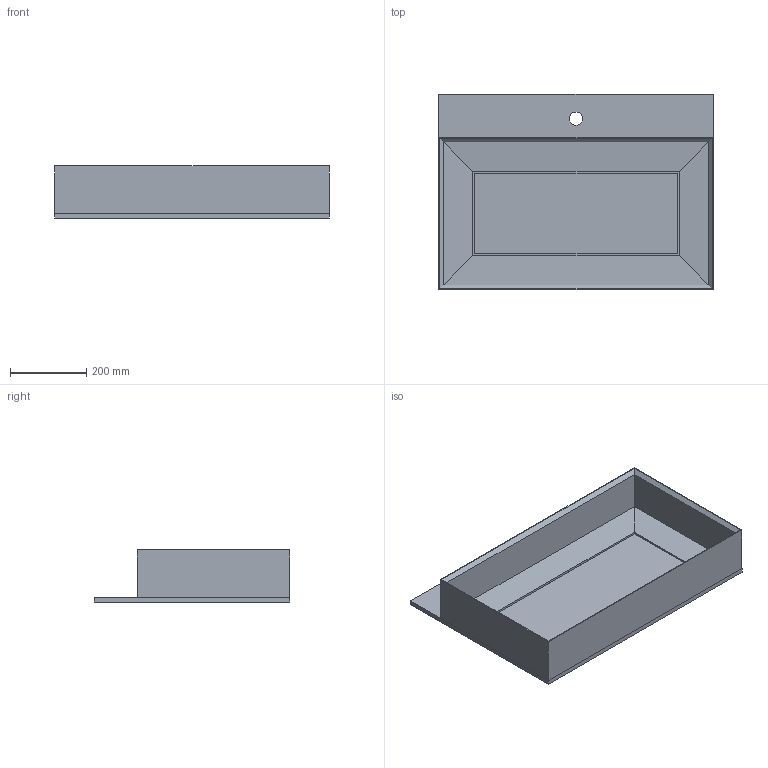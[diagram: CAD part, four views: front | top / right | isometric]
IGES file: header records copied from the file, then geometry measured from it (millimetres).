
Start section: Data from Parasolid IGES Translator 19.0.9, Copyright(c) 2006 Siemens PL M Software. All Rights Reserved.
Global section: file name: noorth-top-H 1,2 D 51,3 W 72_4651.igs; native system: By Siemens PLM Incorporated; preprocessor: XPlus GENERIC/IGES 19.0.9; author: Noname; organization: Noname; date: 20200603.115212; units: metre
Bounding box: 720 x 513 x 137 mm (x, y, z)
Volume: 9574086.5 mm3; surface area: 1858659.3 mm2
Topology: 2 solids, 2 shells, 40 faces, 99 edges, 62 vertices
Faces by surface type: plane 39, cylinder 1
Full cylindrical faces by diameter (mm): 34.9 x1
